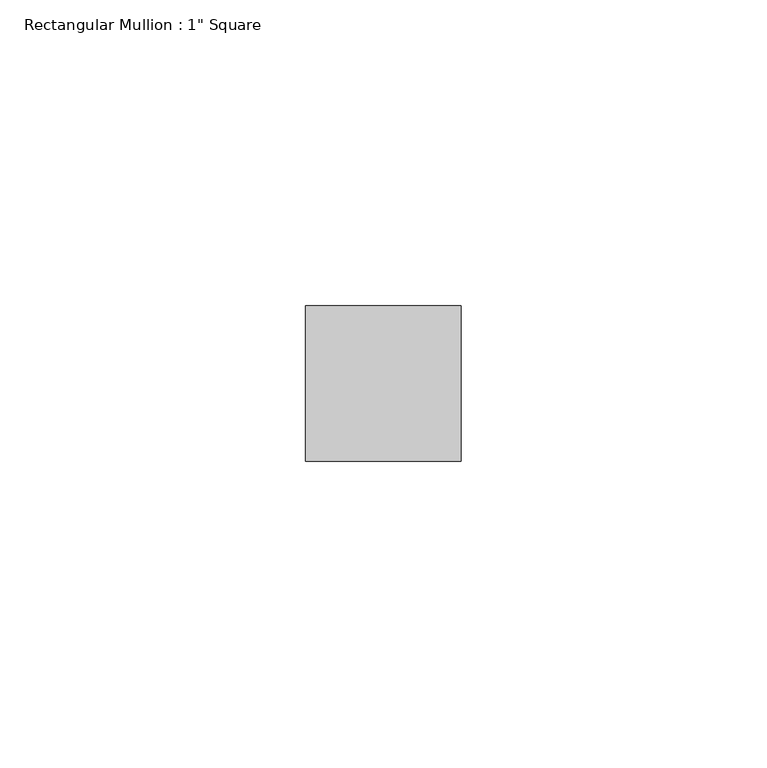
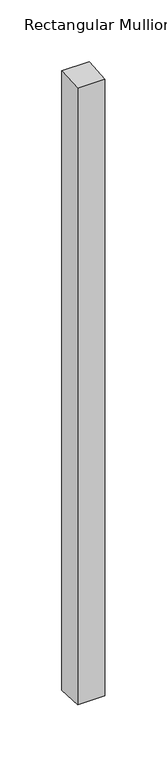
"""IFC4 building model written with IfcOpenShell, lengths in millimetres: member geometry."""

from ifc_helpers import new_model, si_unit, origin, place, context, project, spatial, faceted_brep, source, transform, mapped, element, save


def member_00f58b5b(model_context):
    return source(origin(), model_context, "Body", "Brep", [
        faceted_brep([(-25.4, 12.7, 0.7094336), (0.0, 12.7, 0.7583469), (0.0, 12.7, -610.3583469), (-25.4, 12.7, -610.3094336), (-25.4, -12.7, -0.8072601), (-25.4, -12.7, -608.7927399), (0.0, -12.7, -0.7583469), (0.0, -12.7, -608.8416531)], [[[0, 1, 2, 3]], [[4, 0, 3, 5]], [[6, 4, 5, 7]], [[1, 6, 7, 2]], [[1, 0, 4, 6]], [[2, 7, 5, 3]]]),
    ])


if __name__ == "__main__":
    model = new_model("IFC4")
    model_context = context("Model", 3, world=origin())
    ifc_project = project(units=[si_unit("LENGTHUNIT", "METRE", prefix="MILLI")], contexts=[model_context])
    site = spatial("IfcSite", under=ifc_project)
    building = spatial("IfcBuilding", under=site)
    placement = place(None, origin())
    member_shape = member_00f58b5b(model_context)
    element("IfcMember", 1, ObjectType="Rectangular Mullion : 1\" Square", at=placement, inside=building, context=model_context, shape_type="MappedRepresentation", body=[
        mapped(member_shape, transform((0.0, 0.0, 0.0), x_axis=(1.0, 0.0, 0.0), y_axis=(0.0, 1.0, 0.0), z_axis=(0.0, 0.0, 1.0))),
    ])
    save(model, "model.ifc")
